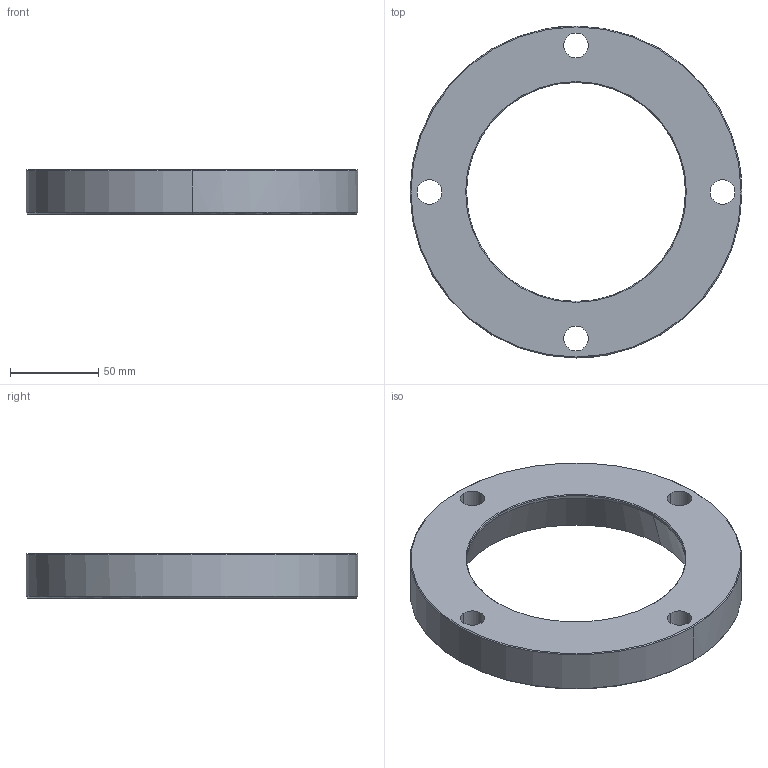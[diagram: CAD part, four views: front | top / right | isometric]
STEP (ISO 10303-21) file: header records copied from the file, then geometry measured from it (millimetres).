
FILE_DESCRIPTION((''),'2;1');
FILE_NAME('','2010-08-30T17:27:17+09:00',('misumi'),(''),'M/STEP i/f 1R2-14','CADmeister v5.1','');
FILE_SCHEMA(('AUTOMOTIVE_DESIGN'));
Length unit declared in the file: millimetre
Products named in the file (1): HKD100-25-N
Bounding box: 188 x 188 x 25 mm (x, y, z)
Volume: 338122.4 mm3; surface area: 57790.2 mm2
Topology: 1 solids, 1 shells, 38 faces, 93 edges, 57 vertices
Faces by surface type: cylinder 20, cone 7, plane 6, bspline 5
Entity records: 2603 total; most frequent: CARTESIAN_POINT 1599, DIRECTION 200, ORIENTED_EDGE 186, EDGE_CURVE 93, AXIS2_PLACEMENT_3D 87, VERTEX_POINT 57, CIRCLE 53, EDGE_LOOP 48
